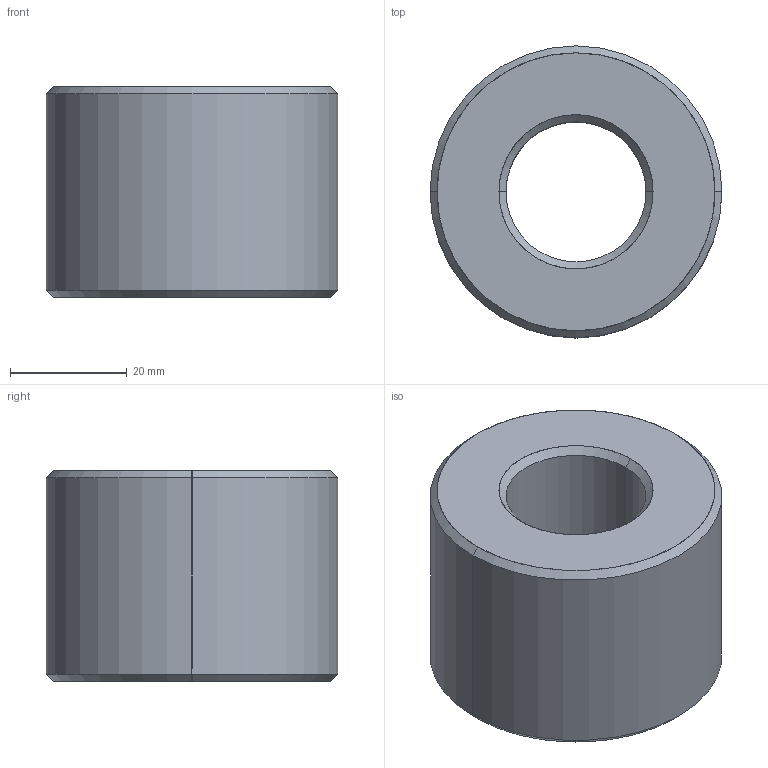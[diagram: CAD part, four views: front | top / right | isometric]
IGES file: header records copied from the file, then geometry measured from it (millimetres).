
Start section: SolidWorks IGES file using analytic representation for surfaces
Global section: file name: C:\Users\ianosborn\Desktop\L1339_v2\L1339_v2_20241024_IGES\L1339.R24-05.igs; native system: SolidWorks 2019; preprocessor: SolidWorks 2019; author: IanOsborn; date: 241024.151022; units: millimetre
Bounding box: 50 x 50 x 36 mm (x, y, z)
Surface area: 11064.6 mm2 (no closed solid volume)
Topology: 0 solids, 0 shells, 14 faces, 240 edges, 240 vertices
Faces by surface type: revolution 12, bspline 2
